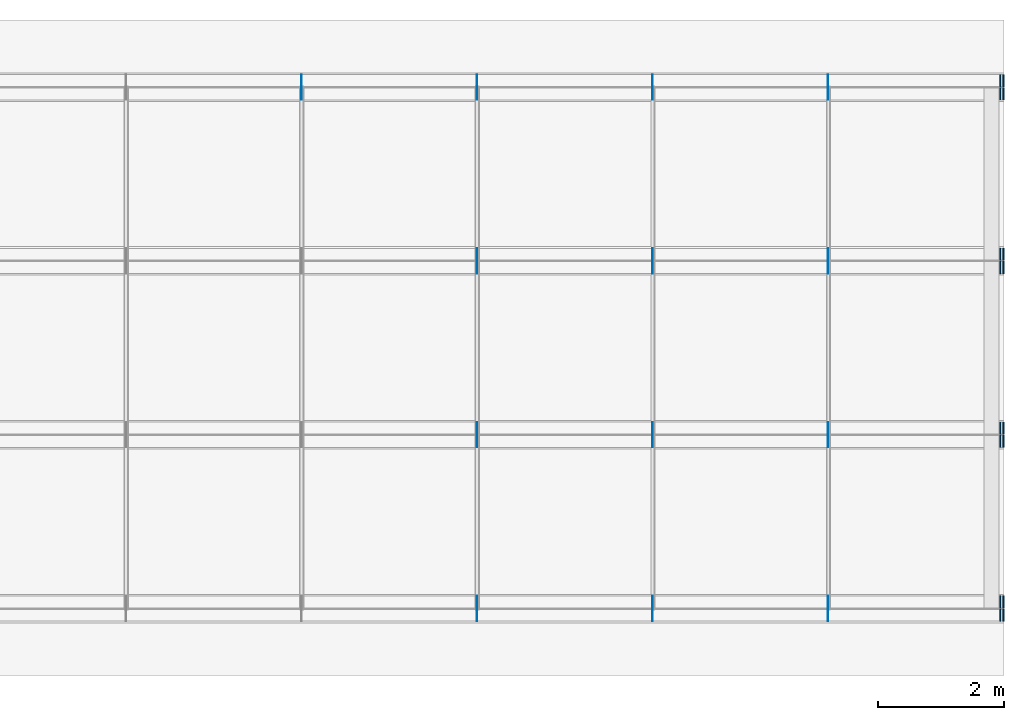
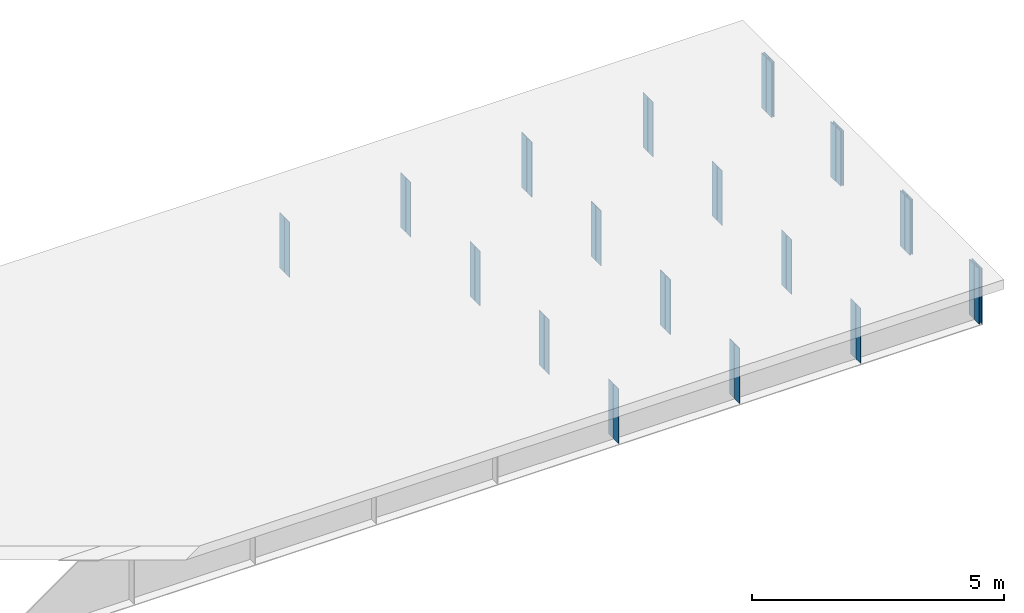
# One storey, part 10 of 10: 42 plates.
"""IFC4 building model written with IfcOpenShell, lengths in metres."""

from ifc_helpers import new_model, si_unit, frame, origin, origin_with_axes, origin_2d_with_axis, place, context, subcontext, project, spatial, rectangle, extrude, element, save


model = new_model("IFC4")

# Units and contexts
model_context = context("Model", 3, precision=1e-05, world=origin())
body_context = subcontext(model_context, "Body", "Model", "MODEL_VIEW")
ifc_project = project(units=[si_unit("LENGTHUNIT", "METRE"), si_unit("AREAUNIT", "SQUARE_METRE"), si_unit("VOLUMEUNIT", "CUBIC_METRE"), si_unit("PLANEANGLEUNIT", "RADIAN")], contexts=[model_context])

# Site, building, storey
site_placement = place(None, origin_with_axes())
site = spatial("IfcSite", under=ifc_project, at=site_placement, Name="Default Site")
building_placement = place(site_placement, origin_with_axes())
building = spatial("IfcBuilding", under=site, at=building_placement, Name="Bridge Structure")
storey_placement = place(building_placement, origin_with_axes())
storey = spatial("IfcBuildingStorey", under=building, at=storey_placement, Name="Superstructure")

# Plates
for number, where, z_axis, x_axis, name in (
    (1, (16.662, -4.021, -0.6675), (0.0, 0.0, 1.0), (1.0, 0.0, 0.0), "Intermediate Stiffener 1"),
    (2, (16.662, -4.229, -0.6675), (0.0, 0.0, 1.0), (1.0, 0.0, 0.0), "Intermediate Stiffener 1"),
    (3, (19.439, -4.021, -0.6675), (0.0, 0.0, 1.0), (1.0, 0.0, 0.0), "Intermediate Stiffener 1"),
    (4, (19.439, -4.229, -0.6675), (0.0, 0.0, 1.0), (1.0, 0.0, 0.0), "Intermediate Stiffener 1"),
    (5, (22.216, -4.021, -0.6675), (0.0, 0.0, 1.0), (1.0, 0.0, 0.0), "Intermediate Stiffener 1"),
    (6, (22.216, -4.229, -0.6675), (0.0, 0.0, 1.0), (1.0, 0.0, 0.0), "Intermediate Stiffener 1"),
):
    element("IfcPlate", number, at=place(storey_placement, frame(where, z_axis=z_axis, x_axis=x_axis)), inside=storey, Name=name, context=body_context, shape_type="SweptSolid", body=[
        extrude(rectangle(XDim=0.012, YDim=0.192, at=origin_2d_with_axis()), origin_with_axes(), (0.0, 0.0, 1.0), 1.335),
    ])
for number, where, z_axis, x_axis, name in (
    (7, (24.990000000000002, -4.021, -0.6675), (0.0, 0.0, 1.0), (1.0, 0.0, 0.0), "End Stiffener 1"),
    (8, (24.990000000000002, -4.229, -0.6675), (0.0, 0.0, 1.0), (1.0, 0.0, 0.0), "End Stiffener 1"),
    (9, (24.94, -4.021, -0.6675), (0.0, 0.0, 1.0), (1.0, 0.0, 0.0), "End Stiffener 1"),
    (10, (24.94, -4.229, -0.6675), (0.0, 0.0, 1.0), (1.0, 0.0, 0.0), "End Stiffener 1"),
):
    element("IfcPlate", number, at=place(storey_placement, frame(where, z_axis=z_axis, x_axis=x_axis)), inside=storey, Name=name, context=body_context, shape_type="SweptSolid", body=[
        extrude(rectangle(XDim=0.02, YDim=0.192, at=origin_2d_with_axis()), origin_with_axes(), (0.0, 0.0, 1.0), 1.335),
    ])
for number, where, z_axis, x_axis, name in (
    (11, (16.662, -1.2710000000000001, -0.6675), (0.0, 0.0, 1.0), (1.0, 0.0, 0.0), "Intermediate Stiffener 2"),
    (12, (16.662, -1.479, -0.6675), (0.0, 0.0, 1.0), (1.0, 0.0, 0.0), "Intermediate Stiffener 2"),
    (13, (19.439, -1.2710000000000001, -0.6675), (0.0, 0.0, 1.0), (1.0, 0.0, 0.0), "Intermediate Stiffener 2"),
    (14, (19.439, -1.479, -0.6675), (0.0, 0.0, 1.0), (1.0, 0.0, 0.0), "Intermediate Stiffener 2"),
    (15, (22.216, -1.2710000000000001, -0.6675), (0.0, 0.0, 1.0), (1.0, 0.0, 0.0), "Intermediate Stiffener 2"),
    (16, (22.216, -1.479, -0.6675), (0.0, 0.0, 1.0), (1.0, 0.0, 0.0), "Intermediate Stiffener 2"),
):
    element("IfcPlate", number, at=place(storey_placement, frame(where, z_axis=z_axis, x_axis=x_axis)), inside=storey, Name=name, context=body_context, shape_type="SweptSolid", body=[
        extrude(rectangle(XDim=0.012, YDim=0.192, at=origin_2d_with_axis()), origin_with_axes(), (0.0, 0.0, 1.0), 1.335),
    ])
for number, where, z_axis, x_axis, name in (
    (17, (24.990000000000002, -1.2710000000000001, -0.6675), (0.0, 0.0, 1.0), (1.0, 0.0, 0.0), "End Stiffener 2"),
    (18, (24.990000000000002, -1.479, -0.6675), (0.0, 0.0, 1.0), (1.0, 0.0, 0.0), "End Stiffener 2"),
    (19, (24.94, -1.2710000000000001, -0.6675), (0.0, 0.0, 1.0), (1.0, 0.0, 0.0), "End Stiffener 2"),
    (20, (24.94, -1.479, -0.6675), (0.0, 0.0, 1.0), (1.0, 0.0, 0.0), "End Stiffener 2"),
):
    element("IfcPlate", number, at=place(storey_placement, frame(where, z_axis=z_axis, x_axis=x_axis)), inside=storey, Name=name, context=body_context, shape_type="SweptSolid", body=[
        extrude(rectangle(XDim=0.02, YDim=0.192, at=origin_2d_with_axis()), origin_with_axes(), (0.0, 0.0, 1.0), 1.335),
    ])
for number, where, z_axis, x_axis, name in (
    (21, (16.662, 1.479, -0.6675), (0.0, 0.0, 1.0), (1.0, 0.0, 0.0), "Intermediate Stiffener 3"),
    (22, (16.662, 1.2710000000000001, -0.6675), (0.0, 0.0, 1.0), (1.0, 0.0, 0.0), "Intermediate Stiffener 3"),
    (23, (19.439, 1.479, -0.6675), (0.0, 0.0, 1.0), (1.0, 0.0, 0.0), "Intermediate Stiffener 3"),
    (24, (19.439, 1.2710000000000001, -0.6675), (0.0, 0.0, 1.0), (1.0, 0.0, 0.0), "Intermediate Stiffener 3"),
    (25, (22.216, 1.479, -0.6675), (0.0, 0.0, 1.0), (1.0, 0.0, 0.0), "Intermediate Stiffener 3"),
    (26, (22.216, 1.2710000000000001, -0.6675), (0.0, 0.0, 1.0), (1.0, 0.0, 0.0), "Intermediate Stiffener 3"),
):
    element("IfcPlate", number, at=place(storey_placement, frame(where, z_axis=z_axis, x_axis=x_axis)), inside=storey, Name=name, context=body_context, shape_type="SweptSolid", body=[
        extrude(rectangle(XDim=0.012, YDim=0.192, at=origin_2d_with_axis()), origin_with_axes(), (0.0, 0.0, 1.0), 1.335),
    ])
for number, where, z_axis, x_axis, name in (
    (27, (24.990000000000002, 1.479, -0.6675), (0.0, 0.0, 1.0), (1.0, 0.0, 0.0), "End Stiffener 3"),
    (28, (24.990000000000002, 1.2710000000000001, -0.6675), (0.0, 0.0, 1.0), (1.0, 0.0, 0.0), "End Stiffener 3"),
    (29, (24.94, 1.479, -0.6675), (0.0, 0.0, 1.0), (1.0, 0.0, 0.0), "End Stiffener 3"),
    (30, (24.94, 1.2710000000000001, -0.6675), (0.0, 0.0, 1.0), (1.0, 0.0, 0.0), "End Stiffener 3"),
):
    element("IfcPlate", number, at=place(storey_placement, frame(where, z_axis=z_axis, x_axis=x_axis)), inside=storey, Name=name, context=body_context, shape_type="SweptSolid", body=[
        extrude(rectangle(XDim=0.02, YDim=0.192, at=origin_2d_with_axis()), origin_with_axes(), (0.0, 0.0, 1.0), 1.335),
    ])
for number, where, z_axis, x_axis, name in (
    (31, (13.885, 4.229, -0.6675), (0.0, 0.0, 1.0), (1.0, 0.0, 0.0), "Intermediate Stiffener 4"),
    (32, (13.885, 4.021, -0.6675), (0.0, 0.0, 1.0), (1.0, 0.0, 0.0), "Intermediate Stiffener 4"),
    (33, (16.662, 4.229, -0.6675), (0.0, 0.0, 1.0), (1.0, 0.0, 0.0), "Intermediate Stiffener 4"),
    (34, (16.662, 4.021, -0.6675), (0.0, 0.0, 1.0), (1.0, 0.0, 0.0), "Intermediate Stiffener 4"),
    (35, (19.439, 4.229, -0.6675), (0.0, 0.0, 1.0), (1.0, 0.0, 0.0), "Intermediate Stiffener 4"),
    (36, (19.439, 4.021, -0.6675), (0.0, 0.0, 1.0), (1.0, 0.0, 0.0), "Intermediate Stiffener 4"),
    (37, (22.216, 4.229, -0.6675), (0.0, 0.0, 1.0), (1.0, 0.0, 0.0), "Intermediate Stiffener 4"),
    (38, (22.216, 4.021, -0.6675), (0.0, 0.0, 1.0), (1.0, 0.0, 0.0), "Intermediate Stiffener 4"),
):
    element("IfcPlate", number, at=place(storey_placement, frame(where, z_axis=z_axis, x_axis=x_axis)), inside=storey, Name=name, context=body_context, shape_type="SweptSolid", body=[
        extrude(rectangle(XDim=0.012, YDim=0.192, at=origin_2d_with_axis()), origin_with_axes(), (0.0, 0.0, 1.0), 1.335),
    ])
for number, where, z_axis, x_axis, name in (
    (39, (24.990000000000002, 4.229, -0.6675), (0.0, 0.0, 1.0), (1.0, 0.0, 0.0), "End Stiffener 4"),
    (40, (24.990000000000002, 4.021, -0.6675), (0.0, 0.0, 1.0), (1.0, 0.0, 0.0), "End Stiffener 4"),
    (41, (24.94, 4.229, -0.6675), (0.0, 0.0, 1.0), (1.0, 0.0, 0.0), "End Stiffener 4"),
    (42, (24.94, 4.021, -0.6675), (0.0, 0.0, 1.0), (1.0, 0.0, 0.0), "End Stiffener 4"),
):
    element("IfcPlate", number, at=place(storey_placement, frame(where, z_axis=z_axis, x_axis=x_axis)), inside=storey, Name=name, context=body_context, shape_type="SweptSolid", body=[
        extrude(rectangle(XDim=0.02, YDim=0.192, at=origin_2d_with_axis()), origin_with_axes(), (0.0, 0.0, 1.0), 1.335),
    ])

save(model, "model.ifc")
